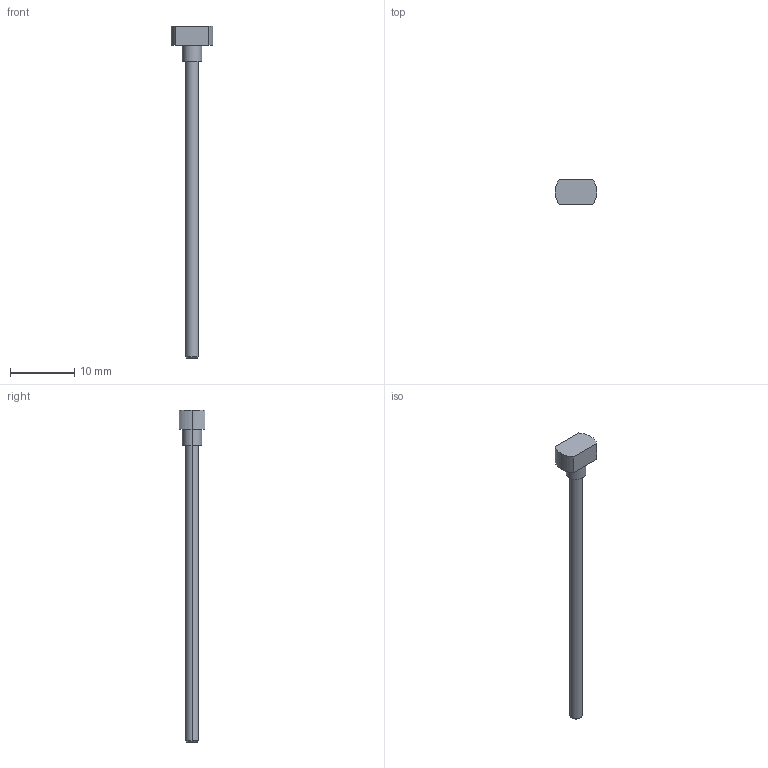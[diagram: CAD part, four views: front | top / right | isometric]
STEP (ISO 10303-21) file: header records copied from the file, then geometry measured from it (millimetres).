
FILE_DESCRIPTION (( 'STEP AP214' ), '1' );
FILE_NAME ('alberino D-N-S.STEP', '2016-02-27T11:17:42', ( '' ), ( '' ), 'SwSTEP 2.0', 'SolidWorks 2012', '' );
FILE_SCHEMA (( 'AUTOMOTIVE_DESIGN' ));
Length unit declared in the file: millimetre
Products named in the file (1): alberino D-N-S
Bounding box: 6.5 x 4 x 51.5 mm (x, y, z)
Volume: 234.8 mm3; surface area: 416.9 mm2
Topology: 1 solids, 1 shells, 15 faces, 31 edges, 20 vertices
Faces by surface type: cylinder 7, plane 6, cone 2
Entity records: 439 total; most frequent: DIRECTION 79, CARTESIAN_POINT 67, ORIENTED_EDGE 62, AXIS2_PLACEMENT_3D 32, EDGE_CURVE 31, VERTEX_POINT 20, EDGE_LOOP 17, CIRCLE 16
